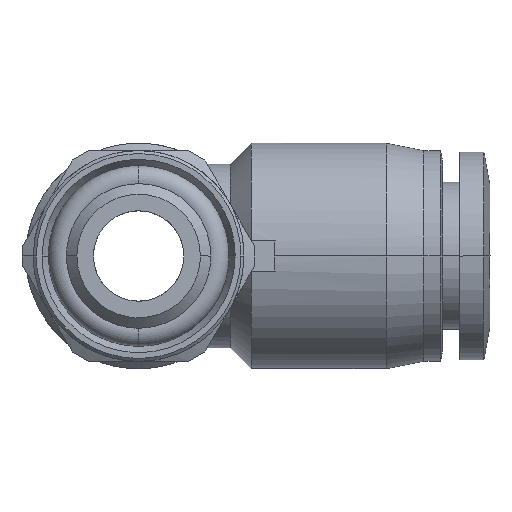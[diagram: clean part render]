
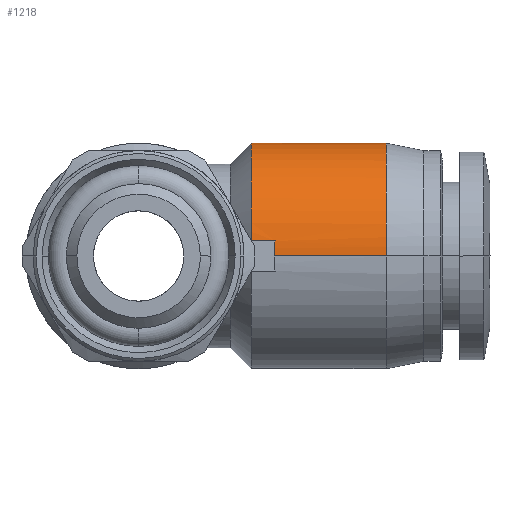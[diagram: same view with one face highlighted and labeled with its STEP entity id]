
A CAD part, front view. The second image highlights one B-rep face of the part: STEP entity #1218.
In plain terms, the highlighted cylindrical face has radius 7.5 mm (diameter 15 mm), a partial arc.
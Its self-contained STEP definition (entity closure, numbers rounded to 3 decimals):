
#14 = EDGE_CURVE ( 'NONE', #521, #5571, #1079, .T. ) ;
#47 = CARTESIAN_POINT ( 'NONE',  ( 16.45, 11.141, 5.998 ) ) ;
#77 = CARTESIAN_POINT ( 'NONE',  ( 16.45, 14.768, 7.5 ) ) ;
#108 = CARTESIAN_POINT ( 'NONE',  ( 10., 23.25, 0. ) ) ;
#220 = CARTESIAN_POINT ( 'NONE',  ( 9.022, 8.272, 0.667 ) ) ;
#237 = VERTEX_POINT ( 'NONE', #1760 ) ;
#371 = CARTESIAN_POINT ( 'NONE',  ( 10.067, 23.183, 1. ) ) ;
#402 = CARTESIAN_POINT ( 'NONE',  ( 7.5, 8.317, 1. ) ) ;
#418 = B_SPLINE_CURVE_WITH_KNOTS ( 'NONE', 3,
 ( #371, #2534, #1302, #1710 ),
 .UNSPECIFIED., .F., .F.,
 ( 4, 4 ),
 ( 0., 1. ),
 .UNSPECIFIED. ) ;
#431 = CARTESIAN_POINT ( 'NONE',  ( 7.5, 21.363, 5.055 ) ) ;
#461 = CARTESIAN_POINT ( 'NONE',  ( 7.5, 14.852, 7.5 ) ) ;
#521 = VERTEX_POINT ( 'NONE', #3460 ) ;
#608 = CARTESIAN_POINT ( 'NONE',  ( 16.45, 8.25, 0. ) ) ;
#694 = AXIS2_PLACEMENT_3D ( 'NONE', #982, #2349, #4179 ) ;
#844 = CARTESIAN_POINT ( 'NONE',  ( 7.5, 10.137, 5.055 ) ) ;
#864 = EDGE_CURVE ( 'NONE', #1404, #5510, #3028, .T. ) ;
#895 = CARTESIAN_POINT ( 'NONE',  ( 16.45, 17.713, 7.305 ) ) ;
#925 = CARTESIAN_POINT ( 'NONE',  ( 16.45, 22.303, 3.777 ) ) ;
#982 = CARTESIAN_POINT ( 'NONE',  ( 11.975, 15.75, 0. ) ) ;
#998 = ORIENTED_EDGE ( 'NONE', *, *, #3486, .F. ) ;
#1079 = B_SPLINE_CURVE_WITH_KNOTS ( 'NONE', 3,
 ( #108, #2854, #2385, #5502 ),
 .UNSPECIFIED., .F., .F.,
 ( 4, 4 ),
 ( 0.5, 1. ),
 .UNSPECIFIED. ) ;
#1085 = VERTEX_POINT ( 'NONE', #3606 ) ;
#1218 = ADVANCED_FACE ( 'NONE', ( #3691 ), #4095, .T. ) ;
#1302 = CARTESIAN_POINT ( 'NONE',  ( 8.356, 23.183, 1. ) ) ;
#1369 = CARTESIAN_POINT ( 'NONE',  ( 7.5, 8.437, 1.89 ) ) ;
#1393 = CARTESIAN_POINT ( 'NONE',  ( 16.45, 19.527, 6.553 ) ) ;
#1404 = VERTEX_POINT ( 'NONE', #1581 ) ;
#1556 = CARTESIAN_POINT ( 'NONE',  ( 7.5, 8.317, 1. ) ) ;
#1574 = B_SPLINE_CURVE_WITH_KNOTS ( 'NONE', 3,
 ( #3891, #5179, #2528, #1556 ),
 .UNSPECIFIED., .F., .F.,
 ( 4, 4 ),
 ( 0., 1. ),
 .UNSPECIFIED. ) ;
#1581 = CARTESIAN_POINT ( 'NONE',  ( 7.5, 23.183, 1. ) ) ;
#1710 = CARTESIAN_POINT ( 'NONE',  ( 7.5, 23.183, 1. ) ) ;
#1749 = ORIENTED_EDGE ( 'NONE', *, *, #5196, .F. ) ;
#1760 = CARTESIAN_POINT ( 'NONE',  ( 9., 8.25, 0. ) ) ;
#1795 = CARTESIAN_POINT ( 'NONE',  ( 16.45, 9.752, 4.609 ) ) ;
#1798 = CARTESIAN_POINT ( 'NONE',  ( 16.45, 23.25, 0. ) ) ;
#1881 = CARTESIAN_POINT ( 'NONE',  ( 16.45, 8.25, 0. ) ) ;
#2134 = EDGE_CURVE ( 'NONE', #521, #4219, #2605, .T. ) ;
#2136 = EDGE_LOOP ( 'NONE', ( #4346, #5039, #1749, #4750, #4288, #2751, #2800, #998 ) ) ;
#2239 = CARTESIAN_POINT ( 'NONE',  ( 7.5, 13.954, 7.337 ) ) ;
#2270 = CARTESIAN_POINT ( 'NONE',  ( 7.5, 17.546, 7.337 ) ) ;
#2294 = CARTESIAN_POINT ( 'NONE',  ( 16.45, 11.973, 6.553 ) ) ;
#2324 = CARTESIAN_POINT ( 'NONE',  ( 16.45, 23.25, 0.982 ) ) ;
#2349 = DIRECTION ( 'NONE',  ( 1., 0., 0. ) ) ;
#2374 = B_SPLINE_CURVE_WITH_KNOTS ( 'NONE', 3,
 ( #3238, #2324, #3145, #925, #4915, #3664, #1393, #895, #5444, #77, #5005, #2294, #47, #1795, #5355, #3207, #3637, #1881 ),
 .UNSPECIFIED., .F., .F.,
 ( 4, 2, 2, 2, 2, 2, 2, 2, 4 ),
 ( 0., 0.063, 0.125, 0.188, 0.25, 0.313, 0.375, 0.438, 0.5 ),
 .UNSPECIFIED. ) ;
#2385 = CARTESIAN_POINT ( 'NONE',  ( 10.022, 23.228, 0.668 ) ) ;
#2522 = CARTESIAN_POINT ( 'NONE',  ( 10.067, 23.183, 1. ) ) ;
#2528 = CARTESIAN_POINT ( 'NONE',  ( 8.022, 8.317, 1. ) ) ;
#2534 = CARTESIAN_POINT ( 'NONE',  ( 9.211, 23.183, 1. ) ) ;
#2605 = LINE ( 'NONE', #4376, #4511 ) ;
#2620 = CARTESIAN_POINT ( 'NONE',  ( 7.5, 8.718, 2.758 ) ) ;
#2648 = CARTESIAN_POINT ( 'NONE',  ( 7.5, 23.063, 1.89 ) ) ;
#2673 = VERTEX_POINT ( 'NONE', #608 ) ;
#2705 = CARTESIAN_POINT ( 'NONE',  ( 7.5, 19.228, 6.705 ) ) ;
#2751 = ORIENTED_EDGE ( 'NONE', *, *, #5116, .T. ) ;
#2800 = ORIENTED_EDGE ( 'NONE', *, *, #864, .T. ) ;
#2844 = CARTESIAN_POINT ( 'NONE',  ( 7.5, 8.317, 1. ) ) ;
#2854 = CARTESIAN_POINT ( 'NONE',  ( 10., 23.25, 0.334 ) ) ;
#2907 = CARTESIAN_POINT ( 'NONE',  ( 9.067, 8.317, 1. ) ) ;
#3028 = B_SPLINE_CURVE_WITH_KNOTS ( 'NONE', 3,
 ( #4394, #2648, #3121, #4419, #431, #3614, #2705, #2270, #4860, #461, #2239, #4836, #3531, #844, #4012, #2620, #1369, #402 ),
 .UNSPECIFIED., .F., .F.,
 ( 4, 2, 2, 2, 2, 2, 2, 2, 4 ),
 ( 0., 0.125, 0.25, 0.375, 0.5, 0.625, 0.75, 0.875, 1. ),
 .UNSPECIFIED. ) ;
#3048 = DIRECTION ( 'NONE',  ( 1., 0., 0. ) ) ;
#3121 = CARTESIAN_POINT ( 'NONE',  ( 7.5, 22.782, 2.758 ) ) ;
#3145 = CARTESIAN_POINT ( 'NONE',  ( 16.45, 23.055, 1.963 ) ) ;
#3207 = CARTESIAN_POINT ( 'NONE',  ( 16.45, 8.445, 1.963 ) ) ;
#3238 = CARTESIAN_POINT ( 'NONE',  ( 16.45, 23.25, 0. ) ) ;
#3412 = EDGE_CURVE ( 'NONE', #237, #2673, #4125, .T. ) ;
#3460 = CARTESIAN_POINT ( 'NONE',  ( 10., 23.25, 0. ) ) ;
#3486 = EDGE_CURVE ( 'NONE', #1085, #5510, #1574, .T. ) ;
#3531 = CARTESIAN_POINT ( 'NONE',  ( 7.5, 11.489, 6.237 ) ) ;
#3606 = CARTESIAN_POINT ( 'NONE',  ( 9.067, 8.317, 1. ) ) ;
#3614 = CARTESIAN_POINT ( 'NONE',  ( 7.5, 20.011, 6.237 ) ) ;
#3637 = CARTESIAN_POINT ( 'NONE',  ( 16.45, 8.25, 0.982 ) ) ;
#3664 = CARTESIAN_POINT ( 'NONE',  ( 16.45, 20.359, 5.998 ) ) ;
#3665 = CARTESIAN_POINT ( 'NONE',  ( 11.975, 8.25, 0. ) ) ;
#3691 = FACE_OUTER_BOUND ( 'NONE', #2136, .T. ) ;
#3891 = CARTESIAN_POINT ( 'NONE',  ( 9.067, 8.317, 1. ) ) ;
#4012 = CARTESIAN_POINT ( 'NONE',  ( 7.5, 9.568, 4.341 ) ) ;
#4095 = CYLINDRICAL_SURFACE ( 'NONE', #694, 7.5 ) ;
#4125 = LINE ( 'NONE', #3665, #5360 ) ;
#4179 = DIRECTION ( 'NONE',  ( 0., 1., 0. ) ) ;
#4219 = VERTEX_POINT ( 'NONE', #1798 ) ;
#4288 = ORIENTED_EDGE ( 'NONE', *, *, #14, .T. ) ;
#4346 = ORIENTED_EDGE ( 'NONE', *, *, #4382, .F. ) ;
#4376 = CARTESIAN_POINT ( 'NONE',  ( 11.975, 23.25, 0. ) ) ;
#4382 = EDGE_CURVE ( 'NONE', #237, #1085, #5090, .T. ) ;
#4394 = CARTESIAN_POINT ( 'NONE',  ( 7.5, 23.183, 1. ) ) ;
#4419 = CARTESIAN_POINT ( 'NONE',  ( 7.5, 21.932, 4.341 ) ) ;
#4511 = VECTOR ( 'NONE', #3048, 1000. ) ;
#4750 = ORIENTED_EDGE ( 'NONE', *, *, #2134, .F. ) ;
#4836 = CARTESIAN_POINT ( 'NONE',  ( 7.5, 12.272, 6.705 ) ) ;
#4860 = CARTESIAN_POINT ( 'NONE',  ( 7.5, 16.648, 7.5 ) ) ;
#4915 = CARTESIAN_POINT ( 'NONE',  ( 16.45, 21.748, 4.609 ) ) ;
#5005 = CARTESIAN_POINT ( 'NONE',  ( 16.45, 13.787, 7.305 ) ) ;
#5006 = DIRECTION ( 'NONE',  ( 1., 0., 0. ) ) ;
#5039 = ORIENTED_EDGE ( 'NONE', *, *, #3412, .T. ) ;
#5090 = B_SPLINE_CURVE_WITH_KNOTS ( 'NONE', 3,
 ( #5211, #5149, #220, #2907 ),
 .UNSPECIFIED., .F., .F.,
 ( 4, 4 ),
 ( 0.5, 1. ),
 .UNSPECIFIED. ) ;
#5116 = EDGE_CURVE ( 'NONE', #5571, #1404, #418, .T. ) ;
#5149 = CARTESIAN_POINT ( 'NONE',  ( 9., 8.25, 0.333 ) ) ;
#5179 = CARTESIAN_POINT ( 'NONE',  ( 8.545, 8.317, 1. ) ) ;
#5196 = EDGE_CURVE ( 'NONE', #4219, #2673, #2374, .T. ) ;
#5211 = CARTESIAN_POINT ( 'NONE',  ( 9., 8.25, 0. ) ) ;
#5355 = CARTESIAN_POINT ( 'NONE',  ( 16.45, 9.197, 3.777 ) ) ;
#5360 = VECTOR ( 'NONE', #5006, 1000. ) ;
#5444 = CARTESIAN_POINT ( 'NONE',  ( 16.45, 16.732, 7.5 ) ) ;
#5502 = CARTESIAN_POINT ( 'NONE',  ( 10.067, 23.183, 1. ) ) ;
#5510 = VERTEX_POINT ( 'NONE', #2844 ) ;
#5571 = VERTEX_POINT ( 'NONE', #2522 ) ;
